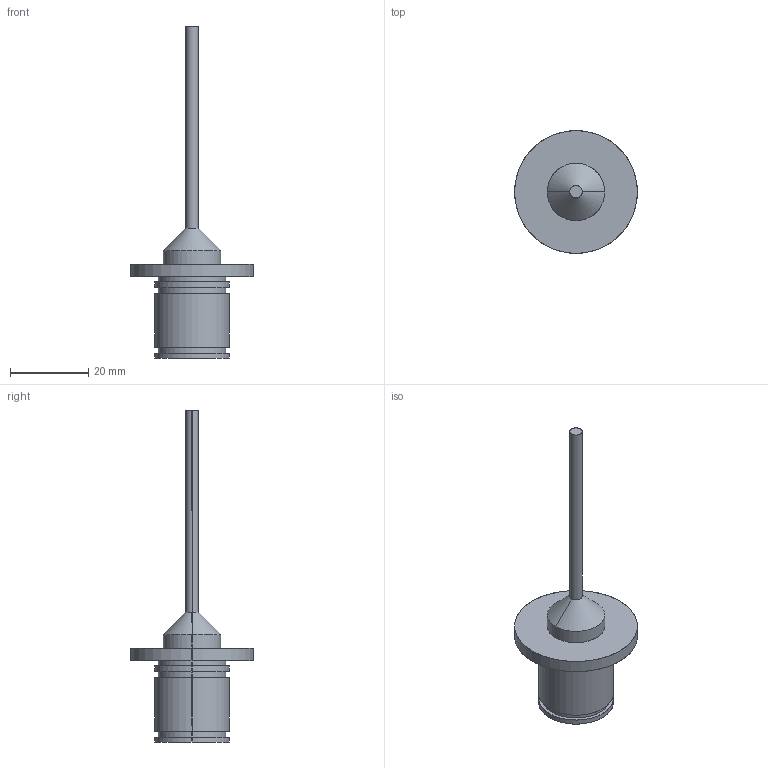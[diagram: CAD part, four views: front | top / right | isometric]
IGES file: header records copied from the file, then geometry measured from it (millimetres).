
Start section: SolidWorks IGES file using analytic representation for surfaces
Global section: file name: C:\Documents and Settings\Administrator\My Documents\EDI\3D\finished sensors\KD-1975 Flanged.IGS; native system: SolidWorks 2008; preprocessor: SolidWorks 2008; author: Administrator; date: 100305.114323; units: inch
Bounding box: 31.5 x 31.5 x 85.09 mm (x, y, z)
Surface area: 4166.4 mm2 (no closed solid volume)
Topology: 0 solids, 0 shells, 29 faces, 656 edges, 656 vertices
Faces by surface type: revolution 20, bspline 9
